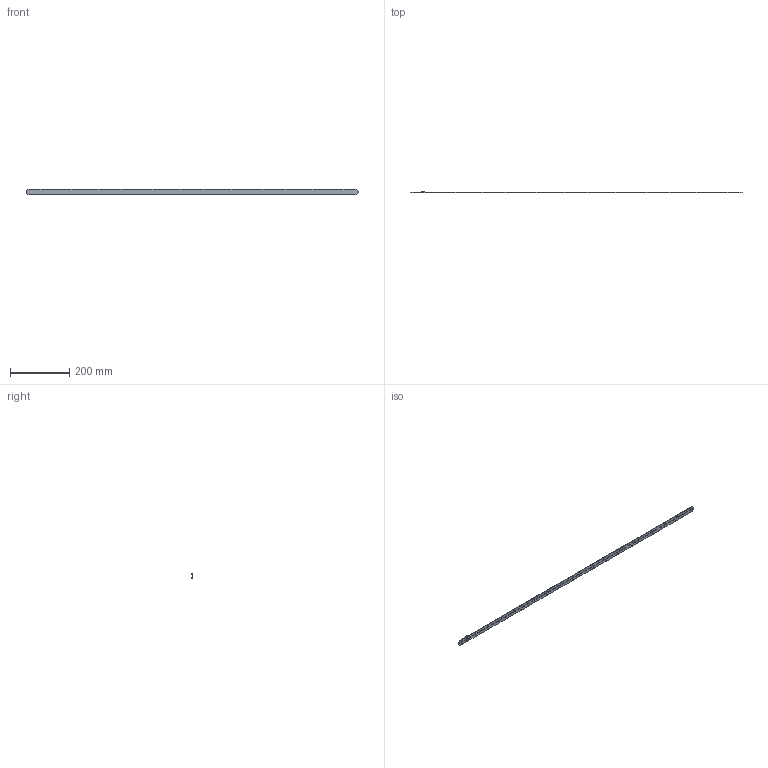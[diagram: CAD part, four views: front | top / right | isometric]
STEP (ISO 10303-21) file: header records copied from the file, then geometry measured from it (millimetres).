
FILE_DESCRIPTION (( 'STEP AP214' ), '1' );
FILE_NAME ('4162930swm000.step', '2020-02-14T15:24:02', ( 'OSRAM' ), ( 'OSRAM' ), 'SwSTEP 2.0', 'SolidWorks 2017', '' );
FILE_SCHEMA (( 'AUTOMOTIVE_DESIGN' ));
Length unit declared in the file: millimetre
Products named in the file (4): 3792700swm000; 3756752swm000; 4163038swm000; 4162930swm000
Assembly tree (4 placements, depth 2):
  4162930swm000
    4163038swm000
    3756752swm000
    3792700swm000  x2
Bounding box: 1119.5 x 5.55 x 20 mm (x, y, z)
Volume: 36218.8 mm3; surface area: 52199.5 mm2
Topology: 147 solids, 147 shells, 2846 faces, 7154 edges, 4752 vertices
Faces by surface type: plane 2670, cylinder 116, bspline 56, cone 4
Entity records: 111552 total; most frequent: CARTESIAN_POINT 15186, ORIENTED_EDGE 13728, DIRECTION 12321, EDGE_CURVE 6864, VECTOR 6621, LINE 6621, VERTEX_POINT 4568, EDGE_LOOP 2884
